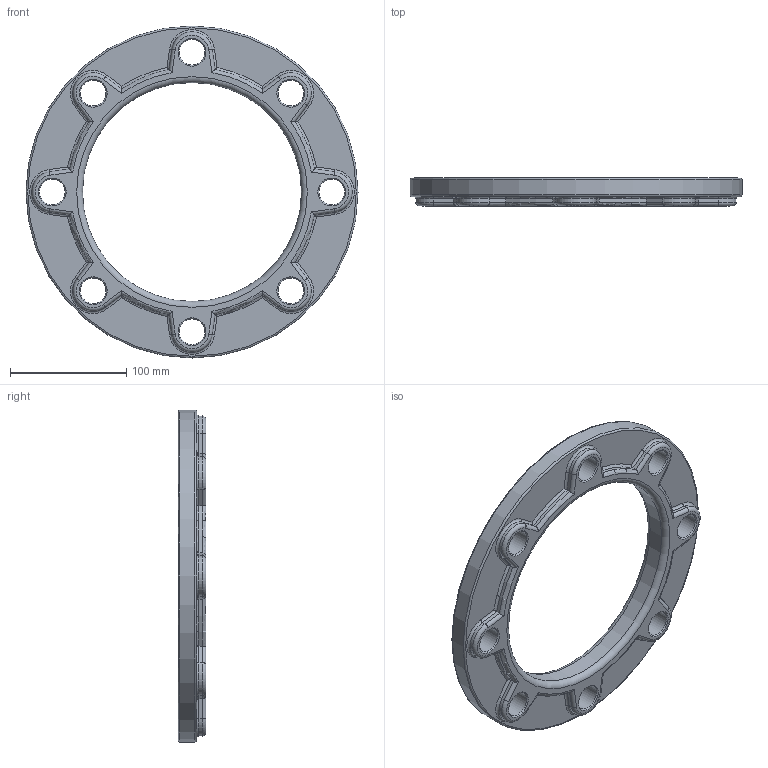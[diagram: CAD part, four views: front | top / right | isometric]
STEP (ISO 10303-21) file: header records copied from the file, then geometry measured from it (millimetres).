
FILE_DESCRIPTION(/* description */ ('Unknown'),/* implementation_level */ '2;1');
FILE_NAME(/* name */ 'FA180B',/* time_stamp */ '2022-07-19T12:26:00+02:00',/* author */ ('Unknown'),/* organization */ ('Unknown'),/* preprocessor_version */ 'ST-DEVELOPER v18.102',/* originating_system */ 'Solid Edge',/* authorisation */ 'Unknown');
FILE_SCHEMA (('AUTOMOTIVE_DESIGN {1 0 10303 214 3 1 1}'));
Length unit declared in the file: millimetre
Products named in the file (1): FA180B
Bounding box: 285 x 24 x 285 mm (x, y, z)
Volume: 623528.4 mm3; surface area: 109517.4 mm2
Topology: 1 solids, 1 shells, 129 faces, 318 edges, 192 vertices
Faces by surface type: cylinder 58, torus 36, plane 19, cone 16
Full cylindrical faces by diameter (mm): 22 x8, 188 x1, 285 x1
Entity records: 3568 total; most frequent: CARTESIAN_POINT 706, DIRECTION 628, ORIENTED_EDGE 528, AXIS2_PLACEMENT_3D 266, EDGE_CURVE 264, EDGE_LOOP 178, FACE_BOUND 178, VERTEX_POINT 168
